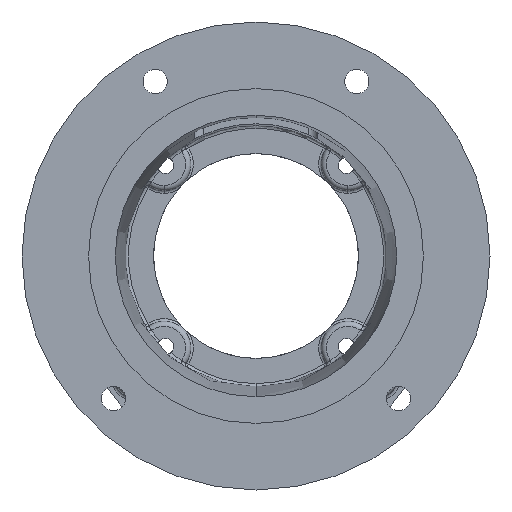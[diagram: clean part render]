
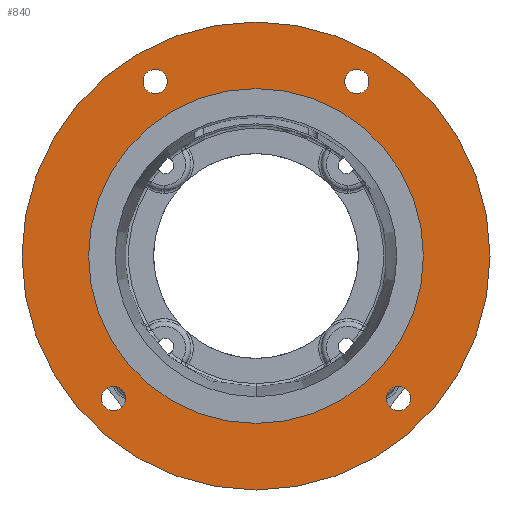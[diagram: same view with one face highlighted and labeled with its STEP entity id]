
A CAD part, front view. The second image highlights one B-rep face of the part: STEP entity #840.
In plain terms, the highlighted planar face has unit normal (0, -1, 0).
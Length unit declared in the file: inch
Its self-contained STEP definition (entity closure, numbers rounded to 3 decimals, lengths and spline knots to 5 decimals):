
#85 = AXIS2_PLACEMENT_3D ( 'NONE', #552, #5745, #8267 ) ;
#143 = PLANE ( 'NONE',  #85 ) ;
#172 = DIRECTION ( 'NONE',  ( 0., 0., -1. ) ) ;
#183 = DIRECTION ( 'NONE',  ( 0., -1., 0. ) ) ;
#186 = CARTESIAN_POINT ( 'NONE',  ( 2.74004, 0., -2.74004 ) ) ;
#220 = VERTEX_POINT ( 'NONE', #1183 ) ;
#314 = CIRCLE ( 'NONE', #9768, 3.2195 ) ;
#478 = CARTESIAN_POINT ( 'NONE',  ( 0., 0., -4.5 ) ) ;
#552 = CARTESIAN_POINT ( 'NONE',  ( -4.5, 0., 0. ) ) ;
#736 = DIRECTION ( 'NONE',  ( 0., 0., -1. ) ) ;
#756 = DIRECTION ( 'NONE',  ( 0., -1., 0. ) ) ;
#763 = CARTESIAN_POINT ( 'NONE',  ( 1.9375, 0., 3.35585 ) ) ;
#821 = ORIENTED_EDGE ( 'NONE', *, *, #5728, .F. ) ;
#840 = ADVANCED_FACE ( 'NONE', ( #4742, #9210, #11591, #6892, #2002, #11320 ), #143, .F. ) ;
#884 = VERTEX_POINT ( 'NONE', #10038 ) ;
#1074 = EDGE_CURVE ( 'NONE', #7273, #7902, #314, .T. ) ;
#1118 = AXIS2_PLACEMENT_3D ( 'NONE', #11419, #11410, #11395 ) ;
#1183 = CARTESIAN_POINT ( 'NONE',  ( 1.9375, 0., 3.12147 ) ) ;
#1212 = CARTESIAN_POINT ( 'NONE',  ( -2.74004, 0., -2.50566 ) ) ;
#1214 = ORIENTED_EDGE ( 'NONE', *, *, #4560, .F. ) ;
#1565 = CIRCLE ( 'NONE', #3718, 0.23438 ) ;
#1718 = CIRCLE ( 'NONE', #7813, 0.23438 ) ;
#1860 = CARTESIAN_POINT ( 'NONE',  ( 0., 0., 3.2195 ) ) ;
#1902 = CARTESIAN_POINT ( 'NONE',  ( 0., 0., 0. ) ) ;
#2002 = FACE_BOUND ( 'NONE', #7148, .T. ) ;
#2041 = AXIS2_PLACEMENT_3D ( 'NONE', #10550, #5225, #11437 ) ;
#2092 = CIRCLE ( 'NONE', #1118, 3.2195 ) ;
#2343 = CIRCLE ( 'NONE', #7464, 0.23438 ) ;
#2450 = CIRCLE ( 'NONE', #4775, 0.23438 ) ;
#2640 = EDGE_CURVE ( 'NONE', #3201, #6384, #4510, .T. ) ;
#2825 = EDGE_LOOP ( 'NONE', ( #3375, #9239 ) ) ;
#2835 = DIRECTION ( 'NONE',  ( 0., 0., -1. ) ) ;
#2851 = CARTESIAN_POINT ( 'NONE',  ( 2.74004, 0., -2.50566 ) ) ;
#2888 = ORIENTED_EDGE ( 'NONE', *, *, #7982, .F. ) ;
#2996 = EDGE_LOOP ( 'NONE', ( #5947, #4716 ) ) ;
#3195 = DIRECTION ( 'NONE',  ( 0., -1., 0. ) ) ;
#3201 = VERTEX_POINT ( 'NONE', #10752 ) ;
#3293 = DIRECTION ( 'NONE',  ( 0., 0., -1. ) ) ;
#3301 = DIRECTION ( 'NONE',  ( 0., 0., -1. ) ) ;
#3323 = DIRECTION ( 'NONE',  ( 0., -1., 0. ) ) ;
#3341 = CARTESIAN_POINT ( 'NONE',  ( 2.74004, 0., -2.74004 ) ) ;
#3375 = ORIENTED_EDGE ( 'NONE', *, *, #10000, .T. ) ;
#3611 = DIRECTION ( 'NONE',  ( 0., -1., 0. ) ) ;
#3718 = AXIS2_PLACEMENT_3D ( 'NONE', #10169, #4819, #11062 ) ;
#3817 = AXIS2_PLACEMENT_3D ( 'NONE', #1902, #8268, #2835 ) ;
#4074 = VERTEX_POINT ( 'NONE', #4128 ) ;
#4128 = CARTESIAN_POINT ( 'NONE',  ( -1.9375, 0., 3.59022 ) ) ;
#4276 = DIRECTION ( 'NONE',  ( 0., -1., 0. ) ) ;
#4436 = VERTEX_POINT ( 'NONE', #1212 ) ;
#4510 = CIRCLE ( 'NONE', #9035, 0.23438 ) ;
#4535 = VERTEX_POINT ( 'NONE', #478 ) ;
#4539 = CARTESIAN_POINT ( 'NONE',  ( 0., 0., 0. ) ) ;
#4560 = EDGE_CURVE ( 'NONE', #6384, #3201, #2343, .T. ) ;
#4701 = EDGE_CURVE ( 'NONE', #7902, #7273, #2092, .T. ) ;
#4711 = ORIENTED_EDGE ( 'NONE', *, *, #2640, .F. ) ;
#4716 = ORIENTED_EDGE ( 'NONE', *, *, #10706, .F. ) ;
#4742 = FACE_BOUND ( 'NONE', #2996, .T. ) ;
#4775 = AXIS2_PLACEMENT_3D ( 'NONE', #9013, #3611, #9896 ) ;
#4819 = DIRECTION ( 'NONE',  ( 0., -1., 0. ) ) ;
#4853 = AXIS2_PLACEMENT_3D ( 'NONE', #4539, #10783, #5461 ) ;
#4884 = CARTESIAN_POINT ( 'NONE',  ( 0., 0., 4.5 ) ) ;
#4929 = ORIENTED_EDGE ( 'NONE', *, *, #11580, .F. ) ;
#5225 = DIRECTION ( 'NONE',  ( 0., -1., 0. ) ) ;
#5461 = DIRECTION ( 'NONE',  ( 0., 0., -1. ) ) ;
#5571 = EDGE_LOOP ( 'NONE', ( #4711, #1214 ) ) ;
#5728 = EDGE_CURVE ( 'NONE', #220, #7553, #5843, .T. ) ;
#5745 = DIRECTION ( 'NONE',  ( 0., 1., 0. ) ) ;
#5843 = CIRCLE ( 'NONE', #7927, 0.23438 ) ;
#5947 = ORIENTED_EDGE ( 'NONE', *, *, #7538, .F. ) ;
#6066 = CIRCLE ( 'NONE', #3817, 4.5 ) ;
#6077 = CIRCLE ( 'NONE', #2041, 0.23438 ) ;
#6148 = CARTESIAN_POINT ( 'NONE',  ( 1.9375, 0., 3.59022 ) ) ;
#6339 = DIRECTION ( 'NONE',  ( 0., -1., 0. ) ) ;
#6384 = VERTEX_POINT ( 'NONE', #2851 ) ;
#6722 = CARTESIAN_POINT ( 'NONE',  ( 0., 0., 0. ) ) ;
#6892 = FACE_BOUND ( 'NONE', #8927, .T. ) ;
#7148 = EDGE_LOOP ( 'NONE', ( #9071, #11366 ) ) ;
#7273 = VERTEX_POINT ( 'NONE', #1860 ) ;
#7464 = AXIS2_PLACEMENT_3D ( 'NONE', #186, #183, #172 ) ;
#7538 = EDGE_CURVE ( 'NONE', #884, #4074, #6077, .T. ) ;
#7553 = VERTEX_POINT ( 'NONE', #6148 ) ;
#7739 = CARTESIAN_POINT ( 'NONE',  ( 0., 0., -3.2195 ) ) ;
#7813 = AXIS2_PLACEMENT_3D ( 'NONE', #8613, #3195, #9477 ) ;
#7902 = VERTEX_POINT ( 'NONE', #7739 ) ;
#7927 = AXIS2_PLACEMENT_3D ( 'NONE', #763, #756, #736 ) ;
#7982 = EDGE_CURVE ( 'NONE', #7553, #220, #10348, .T. ) ;
#8172 = CARTESIAN_POINT ( 'NONE',  ( -2.74004, 0., -2.97441 ) ) ;
#8224 = VERTEX_POINT ( 'NONE', #8172 ) ;
#8252 = EDGE_CURVE ( 'NONE', #10204, #4535, #6066, .T. ) ;
#8267 = DIRECTION ( 'NONE',  ( 0., 0., 1. ) ) ;
#8268 = DIRECTION ( 'NONE',  ( 0., -1., 0. ) ) ;
#8378 = EDGE_LOOP ( 'NONE', ( #821, #2888 ) ) ;
#8613 = CARTESIAN_POINT ( 'NONE',  ( -2.74004, 0., -2.74004 ) ) ;
#8917 = EDGE_CURVE ( 'NONE', #8224, #4436, #1718, .T. ) ;
#8927 = EDGE_LOOP ( 'NONE', ( #11338, #4929 ) ) ;
#9013 = CARTESIAN_POINT ( 'NONE',  ( -1.9375, 0., 3.35585 ) ) ;
#9035 = AXIS2_PLACEMENT_3D ( 'NONE', #3341, #3323, #3293 ) ;
#9071 = ORIENTED_EDGE ( 'NONE', *, *, #4701, .F. ) ;
#9210 = FACE_BOUND ( 'NONE', #8378, .T. ) ;
#9239 = ORIENTED_EDGE ( 'NONE', *, *, #8252, .T. ) ;
#9368 = CIRCLE ( 'NONE', #4853, 4.5 ) ;
#9477 = DIRECTION ( 'NONE',  ( 0., 0., -1. ) ) ;
#9624 = CARTESIAN_POINT ( 'NONE',  ( 1.9375, 0., 3.35585 ) ) ;
#9685 = AXIS2_PLACEMENT_3D ( 'NONE', #9624, #4276, #10537 ) ;
#9768 = AXIS2_PLACEMENT_3D ( 'NONE', #6722, #6339, #3301 ) ;
#9896 = DIRECTION ( 'NONE',  ( 0., 0., -1. ) ) ;
#10000 = EDGE_CURVE ( 'NONE', #4535, #10204, #9368, .T. ) ;
#10038 = CARTESIAN_POINT ( 'NONE',  ( -1.9375, 0., 3.12147 ) ) ;
#10169 = CARTESIAN_POINT ( 'NONE',  ( -2.74004, 0., -2.74004 ) ) ;
#10204 = VERTEX_POINT ( 'NONE', #4884 ) ;
#10348 = CIRCLE ( 'NONE', #9685, 0.23438 ) ;
#10537 = DIRECTION ( 'NONE',  ( 0., 0., -1. ) ) ;
#10550 = CARTESIAN_POINT ( 'NONE',  ( -1.9375, 0., 3.35585 ) ) ;
#10706 = EDGE_CURVE ( 'NONE', #4074, #884, #2450, .T. ) ;
#10752 = CARTESIAN_POINT ( 'NONE',  ( 2.74004, 0., -2.97441 ) ) ;
#10783 = DIRECTION ( 'NONE',  ( 0., -1., 0. ) ) ;
#11062 = DIRECTION ( 'NONE',  ( 0., 0., -1. ) ) ;
#11320 = FACE_OUTER_BOUND ( 'NONE', #2825, .T. ) ;
#11338 = ORIENTED_EDGE ( 'NONE', *, *, #8917, .F. ) ;
#11366 = ORIENTED_EDGE ( 'NONE', *, *, #1074, .F. ) ;
#11395 = DIRECTION ( 'NONE',  ( 0., 0., -1. ) ) ;
#11410 = DIRECTION ( 'NONE',  ( 0., -1., 0. ) ) ;
#11419 = CARTESIAN_POINT ( 'NONE',  ( 0., 0., 0. ) ) ;
#11437 = DIRECTION ( 'NONE',  ( 0., 0., -1. ) ) ;
#11580 = EDGE_CURVE ( 'NONE', #4436, #8224, #1565, .T. ) ;
#11591 = FACE_BOUND ( 'NONE', #5571, .T. ) ;
